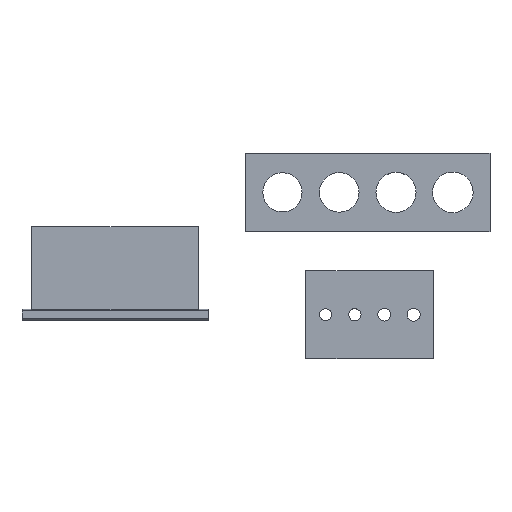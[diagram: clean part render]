
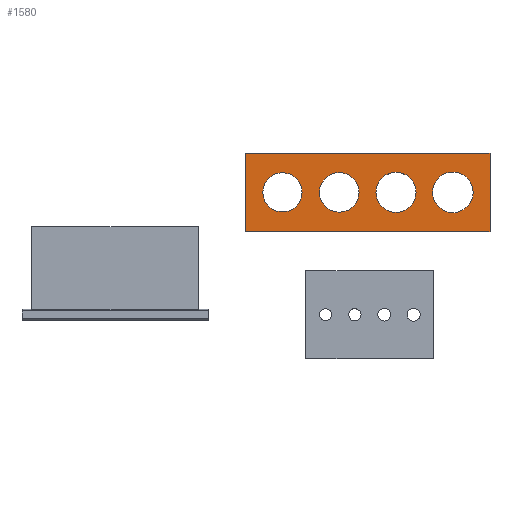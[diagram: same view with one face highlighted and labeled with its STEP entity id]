
A CAD part, top view. The second image highlights one B-rep face of the part: STEP entity #1580.
In plain terms, the highlighted planar face has unit normal (0, 0, 1).
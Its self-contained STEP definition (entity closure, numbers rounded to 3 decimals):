
#1391 = VERTEX_POINT('',#1392);
#1392 = CARTESIAN_POINT('',(-5.4,17.,3.));
#1399 = PLANE('',#1400);
#1400 = AXIS2_PLACEMENT_3D('',#1401,#1402,#1403);
#1401 = CARTESIAN_POINT('',(-5.4,17.,0.));
#1402 = DIRECTION('',(1.,0.,0.));
#1403 = DIRECTION('',(0.,0.,1.));
#1411 = PLANE('',#1412);
#1412 = AXIS2_PLACEMENT_3D('',#1413,#1414,#1415);
#1413 = CARTESIAN_POINT('',(-5.4,17.,0.));
#1414 = DIRECTION('',(0.,1.,0.));
#1415 = DIRECTION('',(0.,0.,1.));
#1452 = VERTEX_POINT('',#1453);
#1453 = CARTESIAN_POINT('',(-5.4,33.,3.));
#1467 = PLANE('',#1468);
#1468 = AXIS2_PLACEMENT_3D('',#1469,#1470,#1471);
#1469 = CARTESIAN_POINT('',(-5.4,33.,0.));
#1470 = DIRECTION('',(0.,1.,0.));
#1471 = DIRECTION('',(0.,0.,1.));
#1479 = EDGE_CURVE('',#1391,#1452,#1480,.T.);
#1480 = SURFACE_CURVE('',#1481,(#1485,#1492),.PCURVE_S1.);
#1481 = LINE('',#1482,#1483);
#1482 = CARTESIAN_POINT('',(-5.4,17.,3.));
#1483 = VECTOR('',#1484,1.);
#1484 = DIRECTION('',(0.,1.,0.));
#1485 = PCURVE('',#1399,#1486);
#1486 = DEFINITIONAL_REPRESENTATION('',(#1487),#1491);
#1487 = LINE('',#1488,#1489);
#1488 = CARTESIAN_POINT('',(3.,0.));
#1489 = VECTOR('',#1490,1.);
#1490 = DIRECTION('',(0.,-1.));
#1491 = ( GEOMETRIC_REPRESENTATION_CONTEXT(2) 
PARAMETRIC_REPRESENTATION_CONTEXT() REPRESENTATION_CONTEXT('2D SPACE',''
  ) );
#1492 = PCURVE('',#1493,#1498);
#1493 = PLANE('',#1494);
#1494 = AXIS2_PLACEMENT_3D('',#1495,#1496,#1497);
#1495 = CARTESIAN_POINT('',(-5.4,17.,3.));
#1496 = DIRECTION('',(0.,0.,1.));
#1497 = DIRECTION('',(1.,0.,0.));
#1498 = DEFINITIONAL_REPRESENTATION('',(#1499),#1503);
#1499 = LINE('',#1500,#1501);
#1500 = CARTESIAN_POINT('',(0.,0.));
#1501 = VECTOR('',#1502,1.);
#1502 = DIRECTION('',(0.,1.));
#1503 = ( GEOMETRIC_REPRESENTATION_CONTEXT(2) 
PARAMETRIC_REPRESENTATION_CONTEXT() REPRESENTATION_CONTEXT('2D SPACE',''
  ) );
#1532 = EDGE_CURVE('',#1391,#1533,#1535,.T.);
#1533 = VERTEX_POINT('',#1534);
#1534 = CARTESIAN_POINT('',(44.6,17.,3.));
#1535 = SURFACE_CURVE('',#1536,(#1540,#1547),.PCURVE_S1.);
#1536 = LINE('',#1537,#1538);
#1537 = CARTESIAN_POINT('',(-5.4,17.,3.));
#1538 = VECTOR('',#1539,1.);
#1539 = DIRECTION('',(1.,0.,0.));
#1540 = PCURVE('',#1411,#1541);
#1541 = DEFINITIONAL_REPRESENTATION('',(#1542),#1546);
#1542 = LINE('',#1543,#1544);
#1543 = CARTESIAN_POINT('',(3.,0.));
#1544 = VECTOR('',#1545,1.);
#1545 = DIRECTION('',(0.,1.));
#1546 = ( GEOMETRIC_REPRESENTATION_CONTEXT(2) 
PARAMETRIC_REPRESENTATION_CONTEXT() REPRESENTATION_CONTEXT('2D SPACE',''
  ) );
#1547 = PCURVE('',#1493,#1548);
#1548 = DEFINITIONAL_REPRESENTATION('',(#1549),#1553);
#1549 = LINE('',#1550,#1551);
#1550 = CARTESIAN_POINT('',(0.,0.));
#1551 = VECTOR('',#1552,1.);
#1552 = DIRECTION('',(1.,0.));
#1553 = ( GEOMETRIC_REPRESENTATION_CONTEXT(2) 
PARAMETRIC_REPRESENTATION_CONTEXT() REPRESENTATION_CONTEXT('2D SPACE',''
  ) );
#1569 = PLANE('',#1570);
#1570 = AXIS2_PLACEMENT_3D('',#1571,#1572,#1573);
#1571 = CARTESIAN_POINT('',(44.6,17.,0.));
#1572 = DIRECTION('',(1.,0.,0.));
#1573 = DIRECTION('',(0.,0.,1.));
#1580 = ADVANCED_FACE('',(#1581,#1629,#1660,#1691,#1722),#1493,.T.);
#1581 = FACE_BOUND('',#1582,.T.);
#1582 = EDGE_LOOP('',(#1583,#1584,#1585,#1608));
#1583 = ORIENTED_EDGE('',*,*,#1479,.F.);
#1584 = ORIENTED_EDGE('',*,*,#1532,.T.);
#1585 = ORIENTED_EDGE('',*,*,#1586,.T.);
#1586 = EDGE_CURVE('',#1533,#1587,#1589,.T.);
#1587 = VERTEX_POINT('',#1588);
#1588 = CARTESIAN_POINT('',(44.6,33.,3.));
#1589 = SURFACE_CURVE('',#1590,(#1594,#1601),.PCURVE_S1.);
#1590 = LINE('',#1591,#1592);
#1591 = CARTESIAN_POINT('',(44.6,17.,3.));
#1592 = VECTOR('',#1593,1.);
#1593 = DIRECTION('',(0.,1.,0.));
#1594 = PCURVE('',#1493,#1595);
#1595 = DEFINITIONAL_REPRESENTATION('',(#1596),#1600);
#1596 = LINE('',#1597,#1598);
#1597 = CARTESIAN_POINT('',(50.,0.));
#1598 = VECTOR('',#1599,1.);
#1599 = DIRECTION('',(0.,1.));
#1600 = ( GEOMETRIC_REPRESENTATION_CONTEXT(2) 
PARAMETRIC_REPRESENTATION_CONTEXT() REPRESENTATION_CONTEXT('2D SPACE',''
  ) );
#1601 = PCURVE('',#1569,#1602);
#1602 = DEFINITIONAL_REPRESENTATION('',(#1603),#1607);
#1603 = LINE('',#1604,#1605);
#1604 = CARTESIAN_POINT('',(3.,0.));
#1605 = VECTOR('',#1606,1.);
#1606 = DIRECTION('',(0.,-1.));
#1607 = ( GEOMETRIC_REPRESENTATION_CONTEXT(2) 
PARAMETRIC_REPRESENTATION_CONTEXT() REPRESENTATION_CONTEXT('2D SPACE',''
  ) );
#1608 = ORIENTED_EDGE('',*,*,#1609,.F.);
#1609 = EDGE_CURVE('',#1452,#1587,#1610,.T.);
#1610 = SURFACE_CURVE('',#1611,(#1615,#1622),.PCURVE_S1.);
#1611 = LINE('',#1612,#1613);
#1612 = CARTESIAN_POINT('',(-5.4,33.,3.));
#1613 = VECTOR('',#1614,1.);
#1614 = DIRECTION('',(1.,0.,0.));
#1615 = PCURVE('',#1493,#1616);
#1616 = DEFINITIONAL_REPRESENTATION('',(#1617),#1621);
#1617 = LINE('',#1618,#1619);
#1618 = CARTESIAN_POINT('',(0.,16.));
#1619 = VECTOR('',#1620,1.);
#1620 = DIRECTION('',(1.,0.));
#1621 = ( GEOMETRIC_REPRESENTATION_CONTEXT(2) 
PARAMETRIC_REPRESENTATION_CONTEXT() REPRESENTATION_CONTEXT('2D SPACE',''
  ) );
#1622 = PCURVE('',#1467,#1623);
#1623 = DEFINITIONAL_REPRESENTATION('',(#1624),#1628);
#1624 = LINE('',#1625,#1626);
#1625 = CARTESIAN_POINT('',(3.,0.));
#1626 = VECTOR('',#1627,1.);
#1627 = DIRECTION('',(0.,1.));
#1628 = ( GEOMETRIC_REPRESENTATION_CONTEXT(2) 
PARAMETRIC_REPRESENTATION_CONTEXT() REPRESENTATION_CONTEXT('2D SPACE',''
  ) );
#1629 = FACE_BOUND('',#1630,.T.);
#1630 = EDGE_LOOP('',(#1631));
#1631 = ORIENTED_EDGE('',*,*,#1632,.F.);
#1632 = EDGE_CURVE('',#1633,#1633,#1635,.T.);
#1633 = VERTEX_POINT('',#1634);
#1634 = CARTESIAN_POINT('',(6.2,25.,3.));
#1635 = SURFACE_CURVE('',#1636,(#1641,#1648),.PCURVE_S1.);
#1636 = CIRCLE('',#1637,4.);
#1637 = AXIS2_PLACEMENT_3D('',#1638,#1639,#1640);
#1638 = CARTESIAN_POINT('',(2.2,25.,3.));
#1639 = DIRECTION('',(0.,0.,1.));
#1640 = DIRECTION('',(1.,0.,0.));
#1641 = PCURVE('',#1493,#1642);
#1642 = DEFINITIONAL_REPRESENTATION('',(#1643),#1647);
#1643 = CIRCLE('',#1644,4.);
#1644 = AXIS2_PLACEMENT_2D('',#1645,#1646);
#1645 = CARTESIAN_POINT('',(7.6,8.));
#1646 = DIRECTION('',(1.,0.));
#1647 = ( GEOMETRIC_REPRESENTATION_CONTEXT(2) 
PARAMETRIC_REPRESENTATION_CONTEXT() REPRESENTATION_CONTEXT('2D SPACE',''
  ) );
#1648 = PCURVE('',#1649,#1654);
#1649 = CYLINDRICAL_SURFACE('',#1650,4.);
#1650 = AXIS2_PLACEMENT_3D('',#1651,#1652,#1653);
#1651 = CARTESIAN_POINT('',(2.2,25.,-1.5));
#1652 = DIRECTION('',(0.,0.,1.));
#1653 = DIRECTION('',(1.,0.,0.));
#1654 = DEFINITIONAL_REPRESENTATION('',(#1655),#1659);
#1655 = LINE('',#1656,#1657);
#1656 = CARTESIAN_POINT('',(0.,4.5));
#1657 = VECTOR('',#1658,1.);
#1658 = DIRECTION('',(1.,0.));
#1659 = ( GEOMETRIC_REPRESENTATION_CONTEXT(2) 
PARAMETRIC_REPRESENTATION_CONTEXT() REPRESENTATION_CONTEXT('2D SPACE',''
  ) );
#1660 = FACE_BOUND('',#1661,.T.);
#1661 = EDGE_LOOP('',(#1662));
#1662 = ORIENTED_EDGE('',*,*,#1663,.F.);
#1663 = EDGE_CURVE('',#1664,#1664,#1666,.T.);
#1664 = VERTEX_POINT('',#1665);
#1665 = CARTESIAN_POINT('',(17.85,25.,3.));
#1666 = SURFACE_CURVE('',#1667,(#1672,#1679),.PCURVE_S1.);
#1667 = CIRCLE('',#1668,4.05);
#1668 = AXIS2_PLACEMENT_3D('',#1669,#1670,#1671);
#1669 = CARTESIAN_POINT('',(13.8,25.,3.));
#1670 = DIRECTION('',(0.,0.,1.));
#1671 = DIRECTION('',(1.,0.,0.));
#1672 = PCURVE('',#1493,#1673);
#1673 = DEFINITIONAL_REPRESENTATION('',(#1674),#1678);
#1674 = CIRCLE('',#1675,4.05);
#1675 = AXIS2_PLACEMENT_2D('',#1676,#1677);
#1676 = CARTESIAN_POINT('',(19.2,8.));
#1677 = DIRECTION('',(1.,0.));
#1678 = ( GEOMETRIC_REPRESENTATION_CONTEXT(2) 
PARAMETRIC_REPRESENTATION_CONTEXT() REPRESENTATION_CONTEXT('2D SPACE',''
  ) );
#1679 = PCURVE('',#1680,#1685);
#1680 = CYLINDRICAL_SURFACE('',#1681,4.05);
#1681 = AXIS2_PLACEMENT_3D('',#1682,#1683,#1684);
#1682 = CARTESIAN_POINT('',(13.8,25.,-1.5));
#1683 = DIRECTION('',(0.,0.,1.));
#1684 = DIRECTION('',(1.,0.,0.));
#1685 = DEFINITIONAL_REPRESENTATION('',(#1686),#1690);
#1686 = LINE('',#1687,#1688);
#1687 = CARTESIAN_POINT('',(0.,4.5));
#1688 = VECTOR('',#1689,1.);
#1689 = DIRECTION('',(1.,0.));
#1690 = ( GEOMETRIC_REPRESENTATION_CONTEXT(2) 
PARAMETRIC_REPRESENTATION_CONTEXT() REPRESENTATION_CONTEXT('2D SPACE',''
  ) );
#1691 = FACE_BOUND('',#1692,.T.);
#1692 = EDGE_LOOP('',(#1693));
#1693 = ORIENTED_EDGE('',*,*,#1694,.F.);
#1694 = EDGE_CURVE('',#1695,#1695,#1697,.T.);
#1695 = VERTEX_POINT('',#1696);
#1696 = CARTESIAN_POINT('',(29.5,25.,3.));
#1697 = SURFACE_CURVE('',#1698,(#1703,#1710),.PCURVE_S1.);
#1698 = CIRCLE('',#1699,4.1);
#1699 = AXIS2_PLACEMENT_3D('',#1700,#1701,#1702);
#1700 = CARTESIAN_POINT('',(25.4,25.,3.));
#1701 = DIRECTION('',(0.,0.,1.));
#1702 = DIRECTION('',(1.,0.,0.));
#1703 = PCURVE('',#1493,#1704);
#1704 = DEFINITIONAL_REPRESENTATION('',(#1705),#1709);
#1705 = CIRCLE('',#1706,4.1);
#1706 = AXIS2_PLACEMENT_2D('',#1707,#1708);
#1707 = CARTESIAN_POINT('',(30.8,8.));
#1708 = DIRECTION('',(1.,0.));
#1709 = ( GEOMETRIC_REPRESENTATION_CONTEXT(2) 
PARAMETRIC_REPRESENTATION_CONTEXT() REPRESENTATION_CONTEXT('2D SPACE',''
  ) );
#1710 = PCURVE('',#1711,#1716);
#1711 = CYLINDRICAL_SURFACE('',#1712,4.1);
#1712 = AXIS2_PLACEMENT_3D('',#1713,#1714,#1715);
#1713 = CARTESIAN_POINT('',(25.4,25.,-1.5));
#1714 = DIRECTION('',(0.,0.,1.));
#1715 = DIRECTION('',(1.,0.,0.));
#1716 = DEFINITIONAL_REPRESENTATION('',(#1717),#1721);
#1717 = LINE('',#1718,#1719);
#1718 = CARTESIAN_POINT('',(0.,4.5));
#1719 = VECTOR('',#1720,1.);
#1720 = DIRECTION('',(1.,0.));
#1721 = ( GEOMETRIC_REPRESENTATION_CONTEXT(2) 
PARAMETRIC_REPRESENTATION_CONTEXT() REPRESENTATION_CONTEXT('2D SPACE',''
  ) );
#1722 = FACE_BOUND('',#1723,.T.);
#1723 = EDGE_LOOP('',(#1724));
#1724 = ORIENTED_EDGE('',*,*,#1725,.F.);
#1725 = EDGE_CURVE('',#1726,#1726,#1728,.T.);
#1726 = VERTEX_POINT('',#1727);
#1727 = CARTESIAN_POINT('',(41.15,25.,3.));
#1728 = SURFACE_CURVE('',#1729,(#1734,#1741),.PCURVE_S1.);
#1729 = CIRCLE('',#1730,4.15);
#1730 = AXIS2_PLACEMENT_3D('',#1731,#1732,#1733);
#1731 = CARTESIAN_POINT('',(37.,25.,3.));
#1732 = DIRECTION('',(0.,0.,1.));
#1733 = DIRECTION('',(1.,0.,0.));
#1734 = PCURVE('',#1493,#1735);
#1735 = DEFINITIONAL_REPRESENTATION('',(#1736),#1740);
#1736 = CIRCLE('',#1737,4.15);
#1737 = AXIS2_PLACEMENT_2D('',#1738,#1739);
#1738 = CARTESIAN_POINT('',(42.4,8.));
#1739 = DIRECTION('',(1.,0.));
#1740 = ( GEOMETRIC_REPRESENTATION_CONTEXT(2) 
PARAMETRIC_REPRESENTATION_CONTEXT() REPRESENTATION_CONTEXT('2D SPACE',''
  ) );
#1741 = PCURVE('',#1742,#1747);
#1742 = CYLINDRICAL_SURFACE('',#1743,4.15);
#1743 = AXIS2_PLACEMENT_3D('',#1744,#1745,#1746);
#1744 = CARTESIAN_POINT('',(37.,25.,-1.5));
#1745 = DIRECTION('',(0.,0.,1.));
#1746 = DIRECTION('',(1.,0.,0.));
#1747 = DEFINITIONAL_REPRESENTATION('',(#1748),#1752);
#1748 = LINE('',#1749,#1750);
#1749 = CARTESIAN_POINT('',(0.,4.5));
#1750 = VECTOR('',#1751,1.);
#1751 = DIRECTION('',(1.,0.));
#1752 = ( GEOMETRIC_REPRESENTATION_CONTEXT(2) 
PARAMETRIC_REPRESENTATION_CONTEXT() REPRESENTATION_CONTEXT('2D SPACE',''
  ) );
